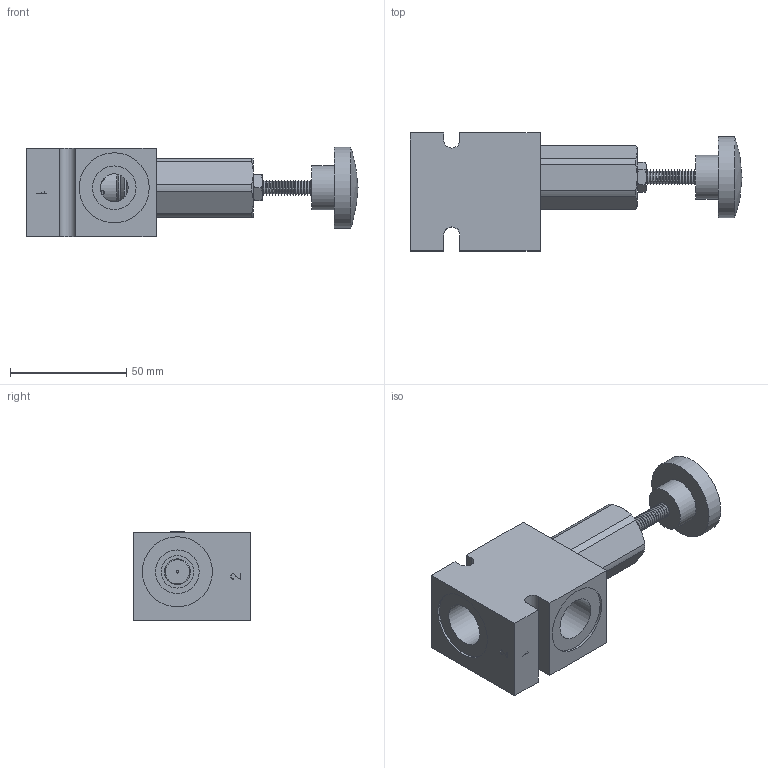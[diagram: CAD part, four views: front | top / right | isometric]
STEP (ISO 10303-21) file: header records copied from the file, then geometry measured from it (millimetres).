
FILE_DESCRIPTION( ( 'Unknown' ), '1' );
FILE_NAME( 'G:/Graphic Design/Graphic Design 2/Data Sheets/FLOW CONTROLS/2_STEP/Pressure Compensated Flow Regulator Valves/D-DEFCA0K-C2.stp', 'Unknown', ( 'Unknown' ), ( 'Unknown' ), 'PSStep 16.0.42', 'Unknown', ' ' );
FILE_SCHEMA( ( 'AUTOMOTIVE_DESIGN { 1 0 10303 214 1 1 1 1 }' ) );
Length unit declared in the file: millimetre
Products named in the file (7): DEFCA0K; DEFCA0K-3D Full1; DEFCA0K-3D Full2; DEFCA0K-3D Full3; DEFCA0K-3D Full4; Assem1; B-DDEC2
Assembly tree (6 placements, depth 3):
  Assem1
    B-DDEC2
    DEFCA0K
      DEFCA0K-3D Full1
      DEFCA0K-3D Full2
      DEFCA0K-3D Full3
      DEFCA0K-3D Full4
Bounding box: 143 x 50.8 x 38.56 mm (x, y, z)
Surface area: 31527.4 mm2 (no closed solid volume)
Topology: 0 solids, 236 shells, 236 faces, 944 edges, 838 vertices
Faces by surface type: plane 93, cone 79, cylinder 58, torus 5, sphere 1
Full cylindrical faces by diameter (mm): 0.2 x2, 1.092 x1, 1.575 x8, 10.414 x4, 11.12 x5, 11.14 x1, 12 x1, 12.7 x1, 12.992 x1, 13.043 x1, 14 x1, 15.735 x1, 15.761 x2, 15.9 x1, 17.043 x1, 17.323 x1, 18.8 x4, 19.05 x1, 19.609 x1, 20.262 x2, 30.17 x2, 30.175 x1, 34.925 x1
Entity records: 12018 total; most frequent: CARTESIAN_POINT 3490, DIRECTION 1346, VERTEX_POINT 816, ORIENTED_EDGE 814, EDGE_CURVE 814, AXIS2_PLACEMENT_3D 580, FACE_BOUND 388, EDGE_LOOP 386
